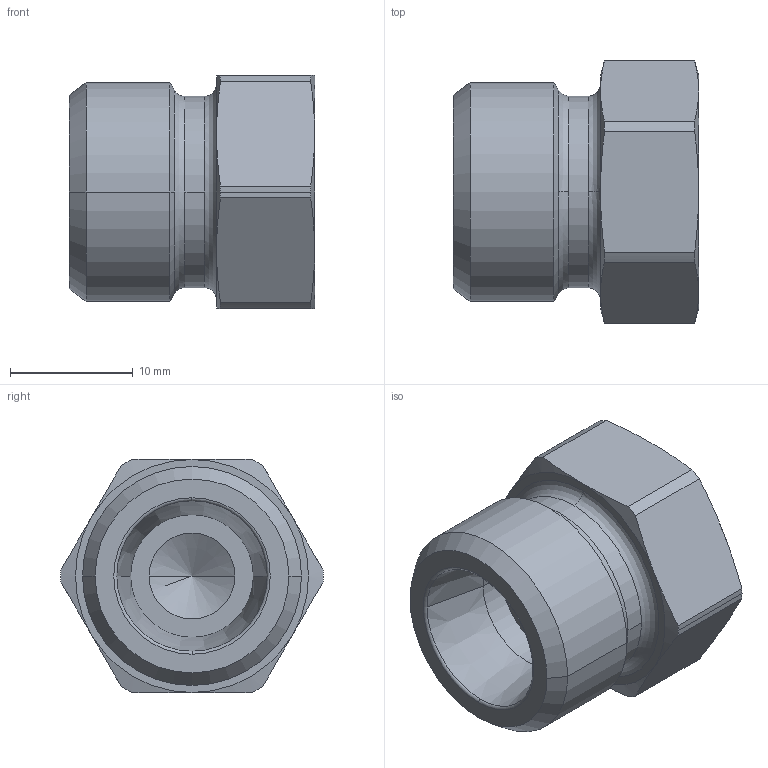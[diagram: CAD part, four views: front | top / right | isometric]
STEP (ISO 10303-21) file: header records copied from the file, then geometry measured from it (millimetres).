
FILE_DESCRIPTION((''),'2;1');
FILE_NAME('108016.stp','2007-10-31T16:29:43',(''),(''),'AutoCAD STEP 2000i','AutoCAD 2000i',', , ');
FILE_SCHEMA(('CONFIG_CONTROL_DESIGN'));
Length unit declared in the file: millimetre
Products named in the file (2): 108016.0; CHIAVE SMUSSATA#0
Assembly tree (1 placements, depth 2):
  108016.0
    CHIAVE SMUSSATA#0
Bounding box: 20 x 21.4 x 19 mm (x, y, z)
Volume: 4443.6 mm3; surface area: 2077.4 mm2
Topology: 1 solids, 1 shells, 52 faces, 126 edges, 77 vertices
Faces by surface type: cone 20, cylinder 16, plane 10, bspline 4, torus 2
Entity records: 1767 total; most frequent: CARTESIAN_POINT 479, DIRECTION 270, ORIENTED_EDGE 248, EDGE_CURVE 124, AXIS2_PLACEMENT_3D 120, VERTEX_POINT 77, CIRCLE 70, EDGE_LOOP 55
